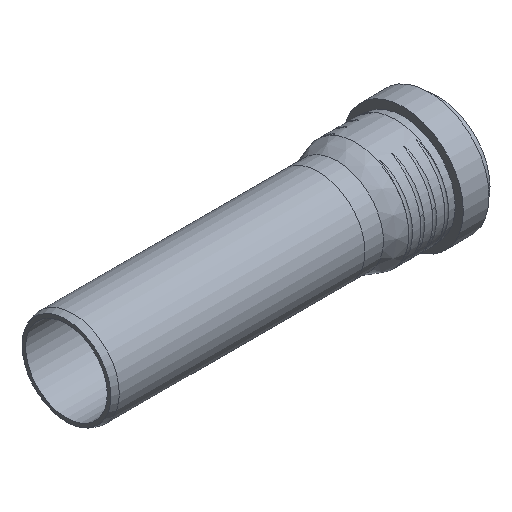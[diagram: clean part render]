
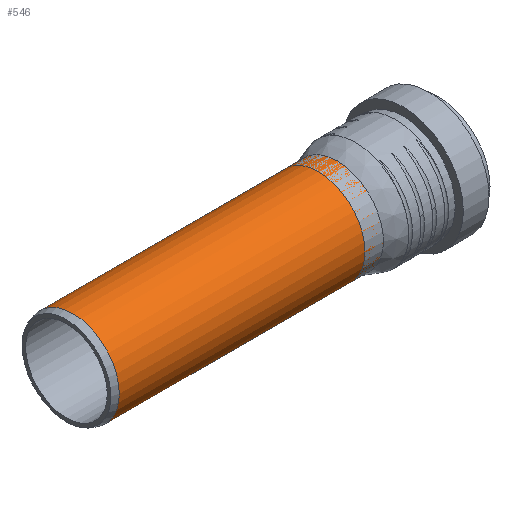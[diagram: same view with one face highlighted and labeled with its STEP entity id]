
A CAD part, isometric view. The second image highlights one B-rep face of the part: STEP entity #546.
In plain terms, the highlighted cylindrical face has radius 25.075 mm (diameter 50.15 mm), a full revolution.
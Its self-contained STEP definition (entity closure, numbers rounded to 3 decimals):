
#67=CYLINDRICAL_SURFACE('',#592,25.075);
#88=FACE_BOUND('',#158,.T.);
#122=FACE_OUTER_BOUND('',#157,.T.);
#157=EDGE_LOOP('',(#376));
#158=EDGE_LOOP('',(#377));
#221=CIRCLE('',#588,25.075);
#224=CIRCLE('',#593,25.075);
#250=VERTEX_POINT('',#786);
#253=VERTEX_POINT('',#794);
#307=EDGE_CURVE('',#250,#250,#221,.T.);
#310=EDGE_CURVE('',#253,#253,#224,.T.);
#376=ORIENTED_EDGE('',*,*,#310,.F.);
#377=ORIENTED_EDGE('',*,*,#307,.F.);
#546=ADVANCED_FACE('',(#122,#88),#67,.T.);
#588=AXIS2_PLACEMENT_3D('',#787,#656,#657);
#592=AXIS2_PLACEMENT_3D('',#793,#664,#665);
#593=AXIS2_PLACEMENT_3D('',#795,#666,#667);
#656=DIRECTION('center_axis',(-1.,0.,0.));
#657=DIRECTION('ref_axis',(0.,1.,0.));
#664=DIRECTION('center_axis',(1.,0.,0.));
#665=DIRECTION('ref_axis',(0.,1.,0.));
#666=DIRECTION('center_axis',(1.,0.,0.));
#667=DIRECTION('ref_axis',(0.,1.,0.));
#786=CARTESIAN_POINT('',(-70.65,-25.075,0.));
#787=CARTESIAN_POINT('Origin',(-70.65,0.,0.));
#793=CARTESIAN_POINT('Origin',(0.,0.,
0.));
#794=CARTESIAN_POINT('',(74.15,-25.075,0.));
#795=CARTESIAN_POINT('Origin',(74.15,0.,0.));
